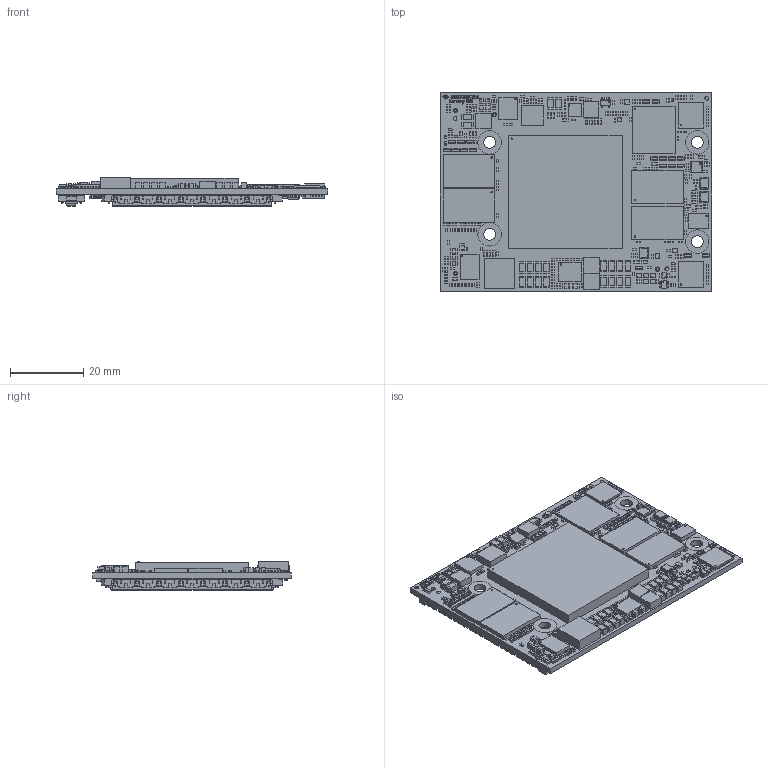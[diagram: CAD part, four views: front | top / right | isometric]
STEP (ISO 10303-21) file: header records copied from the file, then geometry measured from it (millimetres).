
FILE_DESCRIPTION(('Open CASCADE Model'),'2;1');
FILE_NAME('Open CASCADE Shape Model','2019-02-21T16:37:57',('Author'),( 'Open CASCADE'),'Open CASCADE STEP processor 6.8','Open CASCADE 6.8' ,'Unknown');
FILE_SCHEMA(('AUTOMOTIVE_DESIGN { 1 0 10303 214 1 1 1 1 }'));
Length unit declared in the file: millimetre
Products named in the file (786): --
Assembly tree (1369 placements, depth 5):
  --
    --
    --
      --
        --
      --
        --
    --
      --
        --
          --
        --
          --
        --
          --
        --
          --
        --
          --
        --
          --
        --
          --
      --
        --
      --
        --
      --
        --
    --
      --
        --
        --
        --
        --
        --
        --
        --
        --
        --
      --
        --
        --
        --
        --
        --
    --
      --
        --
      --
        --
    --
      --
        --
      --
        --
    --
      --
        --
      --
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Bounding box: 73.8 x 54 x 7.82 mm (x, y, z)
Volume: 12977.5 mm3; surface area: 23157.8 mm2
Topology: 1738 solids, 1738 shells, 21811 faces, 51491 edges, 33735 vertices
Faces by surface type: plane 20275, extrusion 877, cylinder 594, sphere 36, torus 16, cone 12, bspline 1
Full cylindrical faces by diameter (mm): 0.19 x2, 0.2 x12, 0.3 x5, 0.4 x17, 1 x6, 1.1 x3, 1.2 x3, 3.2 x4
Entity records: 253061 total; most frequent: CARTESIAN_POINT 42208, ORIENTED_EDGE 33992, DIRECTION 31055, EDGE_CURVE 16996, VECTOR 15481, LINE 14699, VERTEX_POINT 11221, AXIS2_PLACEMENT_3D 7787
